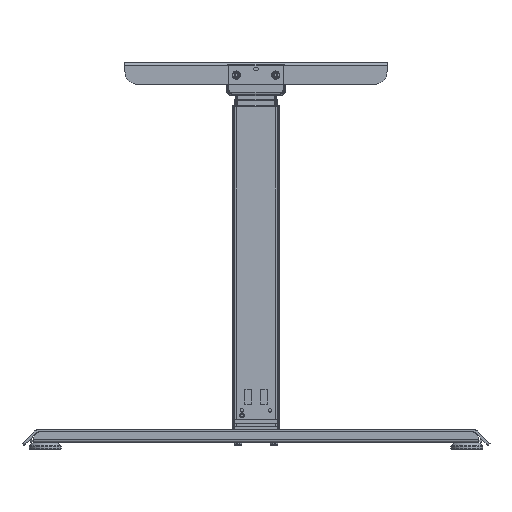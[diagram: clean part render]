
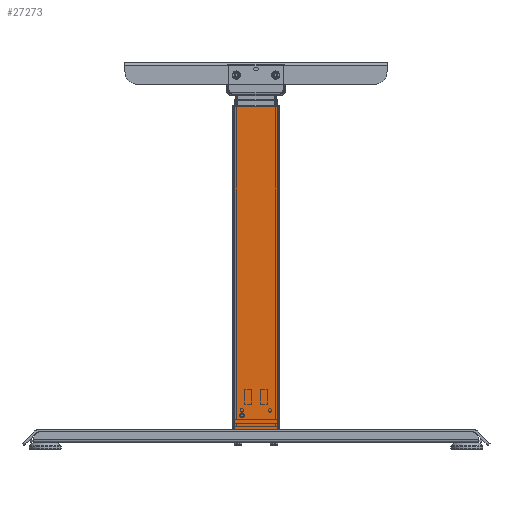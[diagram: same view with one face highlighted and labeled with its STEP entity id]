
A CAD part, left-side view. The second image highlights one B-rep face of the part: STEP entity #27273.
In plain terms, the highlighted planar face has unit normal (-1, 0, 0).
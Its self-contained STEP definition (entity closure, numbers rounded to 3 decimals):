
#1467=PLANE('',#32723);
#3941=ORIENTED_EDGE('',*,*,#11837,.T.);
#3942=ORIENTED_EDGE('',*,*,#11847,.F.);
#3943=ORIENTED_EDGE('',*,*,#11848,.F.);
#3944=ORIENTED_EDGE('',*,*,#11849,.F.);
#11837=EDGE_CURVE('',#15829,#15828,#18497,.T.);
#11847=EDGE_CURVE('',#15835,#15828,#18505,.T.);
#11848=EDGE_CURVE('',#15836,#15835,#18506,.T.);
#11849=EDGE_CURVE('',#15829,#15836,#18507,.T.);
#15828=VERTEX_POINT('',#43627);
#15829=VERTEX_POINT('',#43629);
#15835=VERTEX_POINT('',#43648);
#15836=VERTEX_POINT('',#43650);
#18497=LINE('',#43628,#20818);
#18505=LINE('',#43647,#20826);
#18506=LINE('',#43649,#20827);
#18507=LINE('',#43651,#20828);
#20818=VECTOR('',#35927,1000.);
#20826=VECTOR('',#35945,1000.);
#20827=VECTOR('',#35946,1000.);
#20828=VECTOR('',#35947,1000.);
#23112=EDGE_LOOP('',(#3941,#3942,#3943,#3944));
#24943=FACE_BOUND('',#23112,.T.);
#27273=ADVANCED_FACE('',(#24943),#1467,.T.);
#32723=AXIS2_PLACEMENT_3D('',#43646,#35943,#35944);
#35927=DIRECTION('',(0.,1.,0.));
#35943=DIRECTION('',(-1.,0.,0.));
#35944=DIRECTION('',(0.,-1.,0.));
#35945=DIRECTION('',(0.,0.,1.));
#35946=DIRECTION('',(0.,1.,0.));
#35947=DIRECTION('',(0.,0.,-1.));
#43627=CARTESIAN_POINT('',(32.893,472.9,579.9));
#43628=CARTESIAN_POINT('',(32.893,403.9,579.9));
#43629=CARTESIAN_POINT('',(32.893,403.9,579.9));
#43646=CARTESIAN_POINT('',(32.893,438.4,320.9));
#43647=CARTESIAN_POINT('',(32.893,472.9,61.9));
#43648=CARTESIAN_POINT('',(32.893,472.9,61.9));
#43649=CARTESIAN_POINT('',(32.893,403.9,61.9));
#43650=CARTESIAN_POINT('',(32.893,403.9,61.9));
#43651=CARTESIAN_POINT('',(32.893,403.9,579.9));
